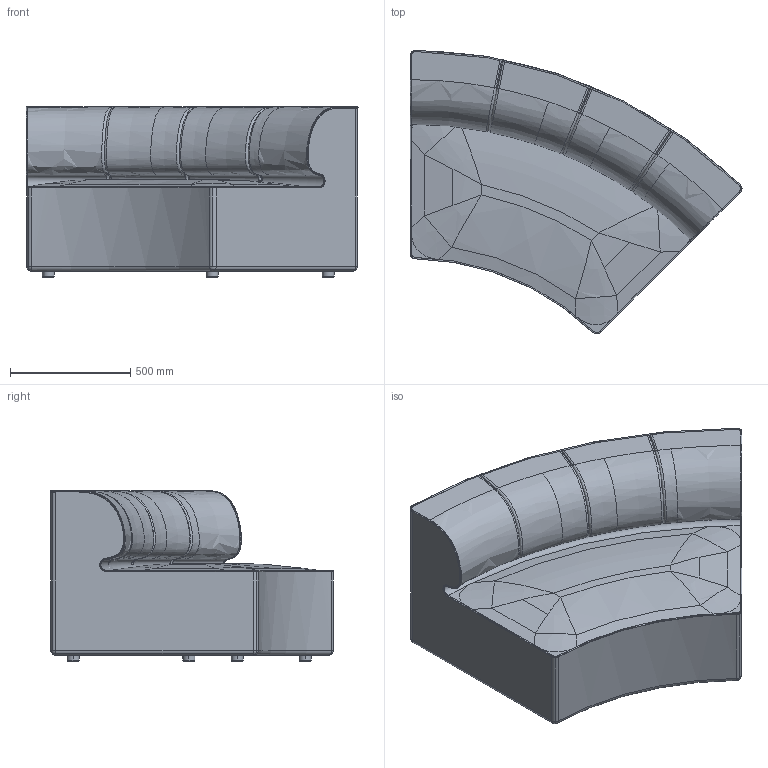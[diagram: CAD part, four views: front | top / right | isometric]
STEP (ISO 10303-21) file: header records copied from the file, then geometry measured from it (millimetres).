
FILE_DESCRIPTION (( 'STEP AP214' ), '1' );
FILE_NAME ('Eave Seamline Modular Sofa 86, Concave Open Module.STEP', '2024-07-03T11:46:42', ( '' ), ( '' ), 'SwSTEP 2.0', 'SolidWorks 2022', '' );
FILE_SCHEMA (( 'AUTOMOTIVE_DESIGN' ));
Length unit declared in the file: millimetre
Products named in the file (1): Eave Seamline Modular Sofa 86, Concave Open Module
Bounding box: 1378.11 x 1177.59 x 708 mm (x, y, z)
Surface area: 4798529.4 mm2 (no closed solid volume)
Topology: 0 solids, 9 shells, 146 faces, 349 edges, 209 vertices
Faces by surface type: cylinder 46, bspline 35, torus 30, plane 25, sphere 8, cone 2
Entity records: 9551 total; most frequent: CARTESIAN_POINT 6391, ORIENTED_EDGE 675, DIRECTION 588, EDGE_CURVE 342, AXIS2_PLACEMENT_3D 261, VERTEX_POINT 209, CIRCLE 149, EDGE_LOOP 146
